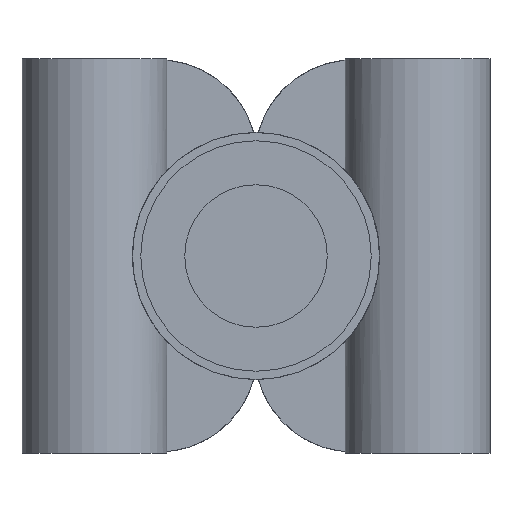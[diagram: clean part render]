
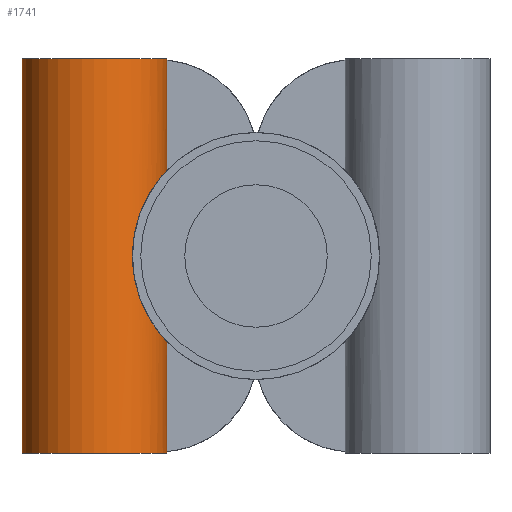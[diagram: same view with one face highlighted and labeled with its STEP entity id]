
A CAD part, front view. The second image highlights one B-rep face of the part: STEP entity #1741.
In plain terms, the highlighted cylindrical face has radius 3.05 mm (diameter 6.1 mm), a partial arc.
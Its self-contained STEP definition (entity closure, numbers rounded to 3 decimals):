
#21 = CARTESIAN_POINT ( 'NONE',  ( -3.75, 11., -3.602 ) ) ;
#25 = EDGE_CURVE ( 'NONE', #2717, #1273, #1039, .T. ) ;
#27 = VECTOR ( 'NONE', #44, 1000. ) ;
#32 = DIRECTION ( 'NONE',  ( 0., 0., 1. ) ) ;
#35 = CARTESIAN_POINT ( 'NONE',  ( -3.774, 10.559, -3.578 ) ) ;
#44 = DIRECTION ( 'NONE',  ( 0., 0., 1. ) ) ;
#48 = CARTESIAN_POINT ( 'NONE',  ( -3.75, 11., -3.602 ) ) ;
#59 = LINE ( 'NONE', #2738, #783 ) ;
#73 = CARTESIAN_POINT ( 'NONE',  ( -3.75, 11., -8.3 ) ) ;
#74 = DIRECTION ( 'NONE',  ( 0., 0., 1. ) ) ;
#77 = CARTESIAN_POINT ( 'NONE',  ( -5.061, 8.495, 1.198 ) ) ;
#92 = CARTESIAN_POINT ( 'NONE',  ( -4.872, 8.636, 1.817 ) ) ;
#116 = ORIENTED_EDGE ( 'NONE', *, *, #724, .T. ) ;
#124 = CARTESIAN_POINT ( 'NONE',  ( -4.096, 9.575, 3.206 ) ) ;
#174 = VERTEX_POINT ( 'NONE', #1902 ) ;
#182 = CARTESIAN_POINT ( 'NONE',  ( -6.8, 11., 8.3 ) ) ;
#213 = CARTESIAN_POINT ( 'NONE',  ( -4.48, 9.019, -2.64 ) ) ;
#240 = CARTESIAN_POINT ( 'NONE',  ( -4.383, 9.138, -2.8 ) ) ;
#279 = CARTESIAN_POINT ( 'NONE',  ( -5.126, 8.45, 0.88 ) ) ;
#293 = CARTESIAN_POINT ( 'NONE',  ( -4.926, 8.594, 1.668 ) ) ;
#306 = CARTESIAN_POINT ( 'NONE',  ( -5.048, 8.503, 1.249 ) ) ;
#326 = DIRECTION ( 'NONE',  ( -1., 0., 0. ) ) ;
#337 = CARTESIAN_POINT ( 'NONE',  ( -5.006, 8.533, 1.41 ) ) ;
#389 = VERTEX_POINT ( 'NONE', #997 ) ;
#390 = AXIS2_PLACEMENT_3D ( 'NONE', #941, #74, #1623 ) ;
#431 = CARTESIAN_POINT ( 'NONE',  ( -4.977, 8.555, -1.512 ) ) ;
#446 = CARTESIAN_POINT ( 'NONE',  ( -5.13, 8.447, -0.879 ) ) ;
#454 = LINE ( 'NONE', #1945, #1466 ) ;
#540 = CARTESIAN_POINT ( 'NONE',  ( -5.095, 8.471, 1.04 ) ) ;
#570 = AXIS2_PLACEMENT_3D ( 'NONE', #2237, #32, #683 ) ;
#658 = CARTESIAN_POINT ( 'NONE',  ( -4.668, 8.818, -2.294 ) ) ;
#683 = DIRECTION ( 'NONE',  ( 1., 0., 0. ) ) ;
#697 = CARTESIAN_POINT ( 'NONE',  ( -4.239, 9.342, -3.013 ) ) ;
#713 = CARTESIAN_POINT ( 'NONE',  ( -4.976, 8.555, 1.515 ) ) ;
#724 = EDGE_CURVE ( 'NONE', #1536, #2717, #454, .T. ) ;
#739 = CARTESIAN_POINT ( 'NONE',  ( -3.75, 11., 3.602 ) ) ;
#771 = CARTESIAN_POINT ( 'NONE',  ( -5.186, 8.412, 0.448 ) ) ;
#783 = VECTOR ( 'NONE', #1637, 1000. ) ;
#845 = DIRECTION ( 'NONE',  ( 0., 0., 1. ) ) ;
#852 = CIRCLE ( 'NONE', #570, 3.05 ) ;
#856 = ORIENTED_EDGE ( 'NONE', *, *, #974, .T. ) ;
#877 = CARTESIAN_POINT ( 'NONE',  ( -5.089, 8.475, -1.092 ) ) ;
#904 = CARTESIAN_POINT ( 'NONE',  ( -4.623, 8.863, -2.383 ) ) ;
#929 = CARTESIAN_POINT ( 'NONE',  ( -4.099, 9.58, -3.201 ) ) ;
#941 = CARTESIAN_POINT ( 'NONE',  ( -6.8, 11., 8.3 ) ) ;
#959 = CARTESIAN_POINT ( 'NONE',  ( -4.753, 8.738, 2.111 ) ) ;
#973 = CARTESIAN_POINT ( 'NONE',  ( -4.622, 8.865, 2.384 ) ) ;
#974 = EDGE_CURVE ( 'NONE', #1273, #389, #2493, .T. ) ;
#997 = CARTESIAN_POINT ( 'NONE',  ( -3.75, 11., 8.3 ) ) ;
#1039 = B_SPLINE_CURVE_WITH_KNOTS ( 'NONE', 3,
 ( #48, #2457, #35, #1344, #1139, #1547, #929, #2689, #697, #2226, #240, #2865, #213, #1817, #1125, #904, #658, #2474, #2701, #1370, #2432, #1792, #1535, #431, #1099, #877, #446, #1764, #2648, #1332, #771, #1627, #279, #540, #1889, #77, #306, #337, #713, #293, #2060, #92, #2325, #1440, #959, #2728, #1656, #973, #1194, #1846, #1224, #2529, #2107, #1165, #124, #1876, #2757, #2046, #2276, #739 ),
 .UNSPECIFIED., .F., .F.,
 ( 4, 2, 2, 2, 2, 2, 2, 2, 2, 2, 2, 2, 2, 2, 2, 2, 2, 2, 2, 2, 2, 2, 2, 2, 2, 2, 2, 2, 2, 4 ),
 ( 0.251, 0.282, 0.313, 0.329, 0.344, 0.36, 0.368, 0.376, 0.391, 0.399, 0.407, 0.422, 0.438, 0.469, 0.501, 0.532, 0.547, 0.555, 0.563, 0.579, 0.587, 0.594, 0.61, 0.618, 0.626, 0.641, 0.657, 0.688, 0.719, 0.751 ),
 .UNSPECIFIED. ) ;
#1099 = CARTESIAN_POINT ( 'NONE',  ( -5.008, 8.532, -1.406 ) ) ;
#1111 = AXIS2_PLACEMENT_3D ( 'NONE', #182, #845, #326 ) ;
#1125 = CARTESIAN_POINT ( 'NONE',  ( -4.554, 8.937, -2.511 ) ) ;
#1139 = CARTESIAN_POINT ( 'NONE',  ( -3.935, 9.937, -3.402 ) ) ;
#1165 = CARTESIAN_POINT ( 'NONE',  ( -4.189, 9.415, 3.086 ) ) ;
#1194 = CARTESIAN_POINT ( 'NONE',  ( -4.6, 8.888, 2.426 ) ) ;
#1224 = CARTESIAN_POINT ( 'NONE',  ( -4.479, 9.019, 2.643 ) ) ;
#1240 = ORIENTED_EDGE ( 'NONE', *, *, #1438, .F. ) ;
#1273 = VERTEX_POINT ( 'NONE', #1928 ) ;
#1332 = CARTESIAN_POINT ( 'NONE',  ( -5.2, 8.403, 0.228 ) ) ;
#1344 = CARTESIAN_POINT ( 'NONE',  ( -3.867, 10.135, -3.477 ) ) ;
#1370 = CARTESIAN_POINT ( 'NONE',  ( -4.796, 8.7, -2.01 ) ) ;
#1438 = EDGE_CURVE ( 'NONE', #174, #2033, #59, .T. ) ;
#1440 = CARTESIAN_POINT ( 'NONE',  ( -4.795, 8.701, 2.015 ) ) ;
#1466 = VECTOR ( 'NONE', #2220, 1000. ) ;
#1533 = EDGE_LOOP ( 'NONE', ( #1904, #116, #2803, #856, #2478, #1240 ) ) ;
#1535 = CARTESIAN_POINT ( 'NONE',  ( -4.91, 8.606, -1.715 ) ) ;
#1536 = VERTEX_POINT ( 'NONE', #73 ) ;
#1547 = CARTESIAN_POINT ( 'NONE',  ( -4.056, 9.666, -3.255 ) ) ;
#1623 = DIRECTION ( 'NONE',  ( 1., 0., 0. ) ) ;
#1627 = CARTESIAN_POINT ( 'NONE',  ( -5.144, 8.439, 0.773 ) ) ;
#1637 = DIRECTION ( 'NONE',  ( 0., 0., 1. ) ) ;
#1656 = CARTESIAN_POINT ( 'NONE',  ( -4.666, 8.82, 2.295 ) ) ;
#1741 = ADVANCED_FACE ( 'NONE', ( #1933 ), #2532, .T. ) ;
#1764 = CARTESIAN_POINT ( 'NONE',  ( -5.186, 8.412, -0.444 ) ) ;
#1792 = CARTESIAN_POINT ( 'NONE',  ( -4.874, 8.634, -1.814 ) ) ;
#1817 = CARTESIAN_POINT ( 'NONE',  ( -4.529, 8.964, -2.556 ) ) ;
#1846 = CARTESIAN_POINT ( 'NONE',  ( -4.528, 8.964, 2.559 ) ) ;
#1876 = CARTESIAN_POINT ( 'NONE',  ( -3.934, 9.938, 3.403 ) ) ;
#1889 = CARTESIAN_POINT ( 'NONE',  ( -5.084, 8.478, 1.092 ) ) ;
#1902 = CARTESIAN_POINT ( 'NONE',  ( -9.85, 11., -8.3 ) ) ;
#1904 = ORIENTED_EDGE ( 'NONE', *, *, #2819, .T. ) ;
#1928 = CARTESIAN_POINT ( 'NONE',  ( -3.75, 11., 3.602 ) ) ;
#1933 = FACE_OUTER_BOUND ( 'NONE', #1533, .T. ) ;
#1945 = CARTESIAN_POINT ( 'NONE',  ( -3.75, 11., 8.3 ) ) ;
#2026 = CARTESIAN_POINT ( 'NONE',  ( -3.75, 11., 8.3 ) ) ;
#2033 = VERTEX_POINT ( 'NONE', #2228 ) ;
#2046 = CARTESIAN_POINT ( 'NONE',  ( -3.775, 10.558, 3.577 ) ) ;
#2060 = CARTESIAN_POINT ( 'NONE',  ( -4.908, 8.607, 1.718 ) ) ;
#2107 = CARTESIAN_POINT ( 'NONE',  ( -4.335, 9.202, 2.873 ) ) ;
#2220 = DIRECTION ( 'NONE',  ( 0., 0., 1. ) ) ;
#2226 = CARTESIAN_POINT ( 'NONE',  ( -4.334, 9.203, -2.874 ) ) ;
#2228 = CARTESIAN_POINT ( 'NONE',  ( -9.85, 11., 8.3 ) ) ;
#2237 = CARTESIAN_POINT ( 'NONE',  ( -6.8, 11., -8.3 ) ) ;
#2276 = CARTESIAN_POINT ( 'NONE',  ( -3.75, 10.777, 3.602 ) ) ;
#2325 = CARTESIAN_POINT ( 'NONE',  ( -4.854, 8.651, 1.865 ) ) ;
#2432 = CARTESIAN_POINT ( 'NONE',  ( -4.817, 8.682, -1.959 ) ) ;
#2457 = CARTESIAN_POINT ( 'NONE',  ( -3.75, 10.777, -3.602 ) ) ;
#2474 = CARTESIAN_POINT ( 'NONE',  ( -4.733, 8.757, -2.154 ) ) ;
#2478 = ORIENTED_EDGE ( 'NONE', *, *, #2858, .F. ) ;
#2493 = LINE ( 'NONE', #2026, #27 ) ;
#2529 = CARTESIAN_POINT ( 'NONE',  ( -4.382, 9.139, 2.8 ) ) ;
#2532 = CYLINDRICAL_SURFACE ( 'NONE', #1111, 3.05 ) ;
#2648 = CARTESIAN_POINT ( 'NONE',  ( -5.2, 8.403, -0.221 ) ) ;
#2689 = CARTESIAN_POINT ( 'NONE',  ( -4.19, 9.419, -3.08 ) ) ;
#2701 = CARTESIAN_POINT ( 'NONE',  ( -4.755, 8.737, -2.107 ) ) ;
#2717 = VERTEX_POINT ( 'NONE', #21 ) ;
#2728 = CARTESIAN_POINT ( 'NONE',  ( -4.688, 8.799, 2.25 ) ) ;
#2738 = CARTESIAN_POINT ( 'NONE',  ( -9.85, 11., 8.3 ) ) ;
#2757 = CARTESIAN_POINT ( 'NONE',  ( -3.867, 10.136, 3.477 ) ) ;
#2803 = ORIENTED_EDGE ( 'NONE', *, *, #25, .T. ) ;
#2819 = EDGE_CURVE ( 'NONE', #174, #1536, #852, .T. ) ;
#2842 = CIRCLE ( 'NONE', #390, 3.05 ) ;
#2858 = EDGE_CURVE ( 'NONE', #2033, #389, #2842, .T. ) ;
#2865 = CARTESIAN_POINT ( 'NONE',  ( -4.456, 9.048, -2.681 ) ) ;
